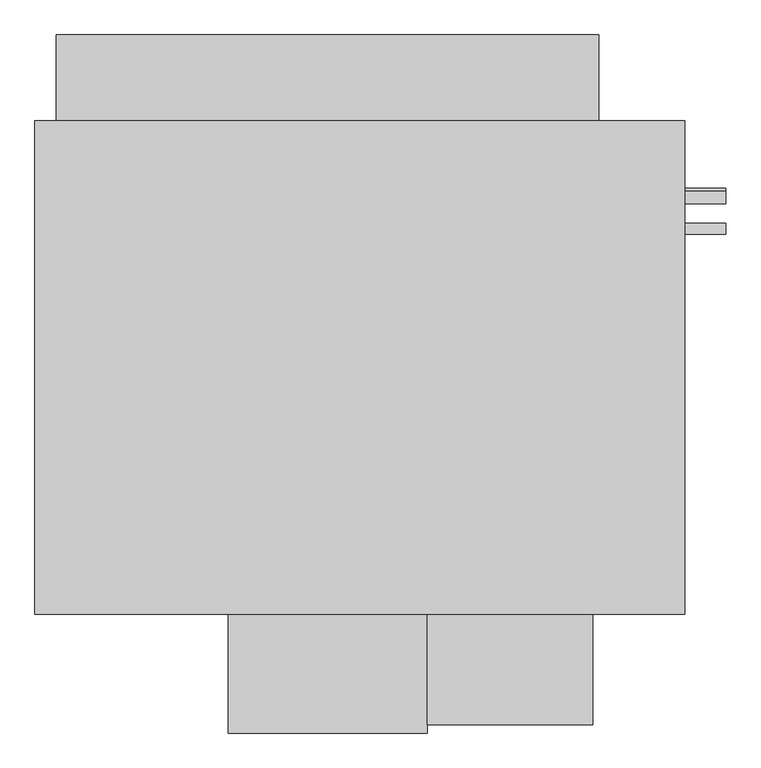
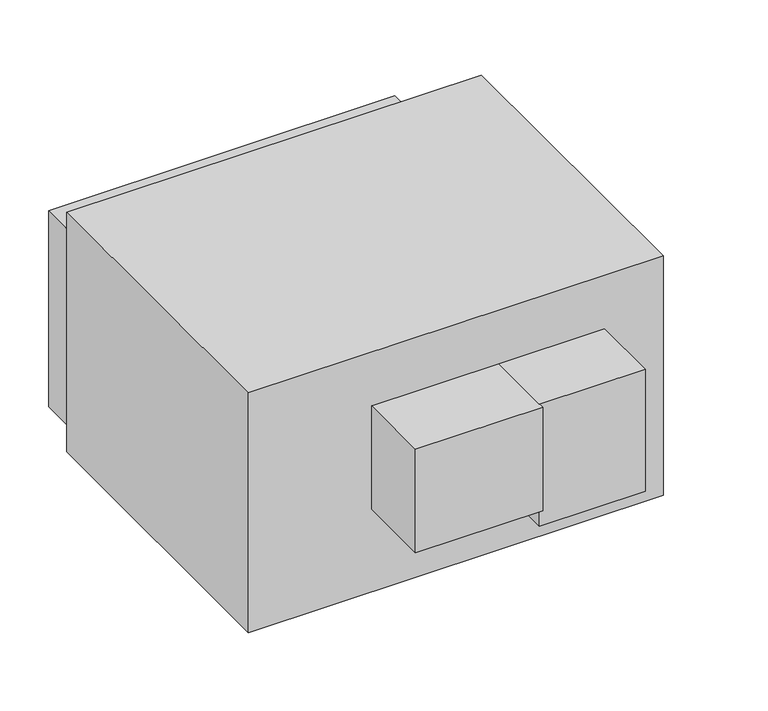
"""IFC4 building model written with IfcOpenShell, lengths in millimetres: proxy geometry, Horizontal_Direct_Drive_Blower_Coil_Unit_-_42DHA_-_CARRIER_-_2-Pipe_Cool-EHeat_RH_2022 : Size 30 - 460v/60Hz/3Ph - 8 Row 30.0kW."""

from ifc_helpers import new_model, si_unit, point, frame, frame_2d, origin, place, context, project, spatial, polyline, circle_curve, trimmed, segment, composite_curve, outline, extrude, source, transform, mapped, element, save


def mechanical_equipment_1df3aa0c(model_context):
    return source(origin(), model_context, "Body", "SweptSolid", [
        extrude(outline(polyline([(279.4, 492.125), (279.4, -530.225), (-1066.8, -530.225), (-1066.8, 492.125), (279.4, 492.125)])), frame((0.0, 0.0, -822.3058174), z_axis=(0.0, 0.0, 1.0), x_axis=(1.0, 0.0, 0.0)), (0.0, 0.0, 1.0), 822.3058174),
        extrude(outline(polyline([(88.9, -758.825), (-254.0, -758.825), (-254.0, -530.225), (88.9, -530.225), (88.9, -758.825)])), frame((0.0, 0.0, -603.2308174), z_axis=(0.0, 0.0, 1.0), x_axis=(1.0, 0.0, 0.0)), (0.0, 0.0, 1.0), 419.1),
        extrude(outline(composite_curve([segment(trimmed(circle_curve(frame_2d((333.375, -177.8)), 12.7), [point((346.075, -177.8))], [point((320.675, -177.8))], False, "CARTESIAN"), True, "CONTINUOUS"), segment(trimmed(circle_curve(frame_2d((333.375, -177.8)), 12.7), [point((320.675, -177.8))], [point((346.075, -177.8))], False, "CARTESIAN"), True, "CONTINUOUS")], self_intersect=False)), frame((279.4, 0.0, 0.0), z_axis=(1.0, 0.0, 0.0), x_axis=(0.0, 1.0, 0.0)), (0.0, 0.0, 1.0), 85.2932),
        extrude(outline(composite_curve([segment(trimmed(circle_curve(frame_2d((340.130856, -695.3058174)), 12.7), [point((352.830856, -695.3058174))], [point((327.430856, -695.3058174))], False, "CARTESIAN"), True, "CONTINUOUS"), segment(trimmed(circle_curve(frame_2d((340.130856, -695.3058174)), 12.7), [point((327.430856, -695.3058174))], [point((352.830856, -695.3058174))], False, "CARTESIAN"), True, "CONTINUOUS")], self_intersect=False)), frame((279.4, 0.0, 0.0), z_axis=(1.0, 0.0, 0.0), x_axis=(0.0, 1.0, 0.0)), (0.0, 0.0, 1.0), 85.2932),
        extrude(outline(composite_curve([segment(trimmed(circle_curve(frame_2d((268.4630494, -777.8558174)), 11.1125), [point((279.5755494, -777.8558174))], [point((257.3505494, -777.8558174))], False, "CARTESIAN"), True, "CONTINUOUS"), segment(trimmed(circle_curve(frame_2d((268.4630494, -777.8558174)), 11.1125), [point((257.3505494, -777.8558174))], [point((279.5755494, -777.8558174))], False, "CARTESIAN"), True, "CONTINUOUS")], self_intersect=False)), frame((279.4, 0.0, 0.0), z_axis=(1.0, 0.0, 0.0), x_axis=(0.0, 1.0, 0.0)), (0.0, 0.0, 1.0), 85.2932),
        extrude(outline(polyline([(-1022.35, 669.925), (101.6, 669.925), (101.6, 492.125), (-1022.35, 492.125), (-1022.35, 669.925)])), frame((0.0, 0.0, -790.5558174), z_axis=(0.0, 0.0, 1.0), x_axis=(1.0, 0.0, 0.0)), (0.0, 0.0, 1.0), 673.1),
        extrude(outline(polyline([(-254.0, -776.2875), (-666.75, -776.2875), (-666.75, -530.225), (-254.0, -530.225), (-254.0, -776.2875)])), frame((0.0, 0.0, -539.7308174), z_axis=(0.0, 0.0, 1.0), x_axis=(1.0, 0.0, 0.0)), (0.0, 0.0, 1.0), 355.6),
    ])


if __name__ == "__main__":
    model = new_model("IFC4")
    model_context = context("Model", 3, world=origin())
    ifc_project = project(units=[si_unit("LENGTHUNIT", "METRE", prefix="MILLI")], contexts=[model_context])
    site = spatial("IfcSite", under=ifc_project)
    building = spatial("IfcBuilding", under=site)
    placement = place(None, origin())
    mechanical_equipment_shape = mechanical_equipment_1df3aa0c(model_context)
    element("IfcBuildingElementProxy", 1, Name="Horizontal_Direct_Drive_Blower_Coil_Unit_-_42DHA_-_CARRIER_-_2-Pipe_Cool-EHeat_RH_2022 : Size 30 - 460v/60Hz/3Ph - 8 Row 30.0kW", ObjectType="Horizontal_Direct_Drive_Blower_Coil_Unit_-_42DHA_-_CARRIER_-_2-Pipe_Cool-EHeat_RH_2022 : Size 30 - 460v/60Hz/3Ph - 8 Row 30.0kW", at=placement, inside=building, context=model_context, shape_type="MappedRepresentation", body=[
        mapped(mechanical_equipment_shape, transform((0.0, 0.0, 0.0), x_axis=(1.0, 0.0, 0.0), y_axis=(0.0, 1.0, 0.0), z_axis=(0.0, 0.0, 1.0))),
    ])
    save(model, "model.ifc")
